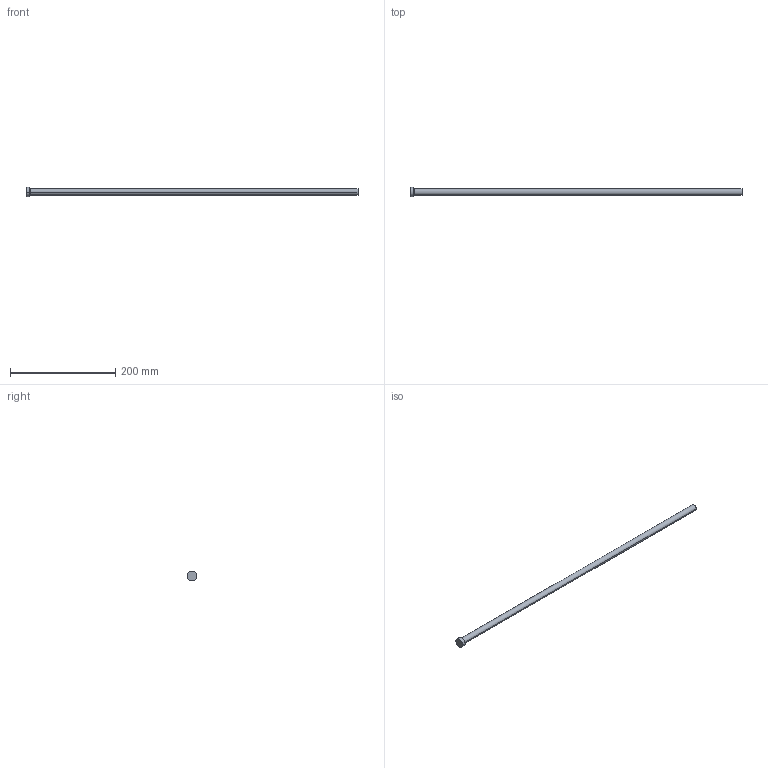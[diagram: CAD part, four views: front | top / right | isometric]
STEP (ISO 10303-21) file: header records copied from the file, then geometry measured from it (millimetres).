
FILE_DESCRIPTION (( 'STEP AP214' ), '1' );
FILE_NAME ('A-12x630.STEP', '2020-05-29T16:14:24', ( 'August' ), ( '' ), 'SwSTEP 2.0', 'SolidWorks 2018', '' );
FILE_SCHEMA (( 'AUTOMOTIVE_DESIGN' ));
Length unit declared in the file: millimetre
Products named in the file (1): A-12x630
Bounding box: 630 x 18 x 18 mm (x, y, z)
Volume: 72246.3 mm3; surface area: 24378.7 mm2
Topology: 1 solids, 1 shells, 9 faces, 16 edges, 10 vertices
Faces by surface type: cylinder 4, plane 3, torus 2
Entity records: 260 total; most frequent: DIRECTION 48, CARTESIAN_POINT 36, ORIENTED_EDGE 32, AXIS2_PLACEMENT_3D 22, EDGE_CURVE 16, CIRCLE 12, EDGE_LOOP 10, VERTEX_POINT 10
